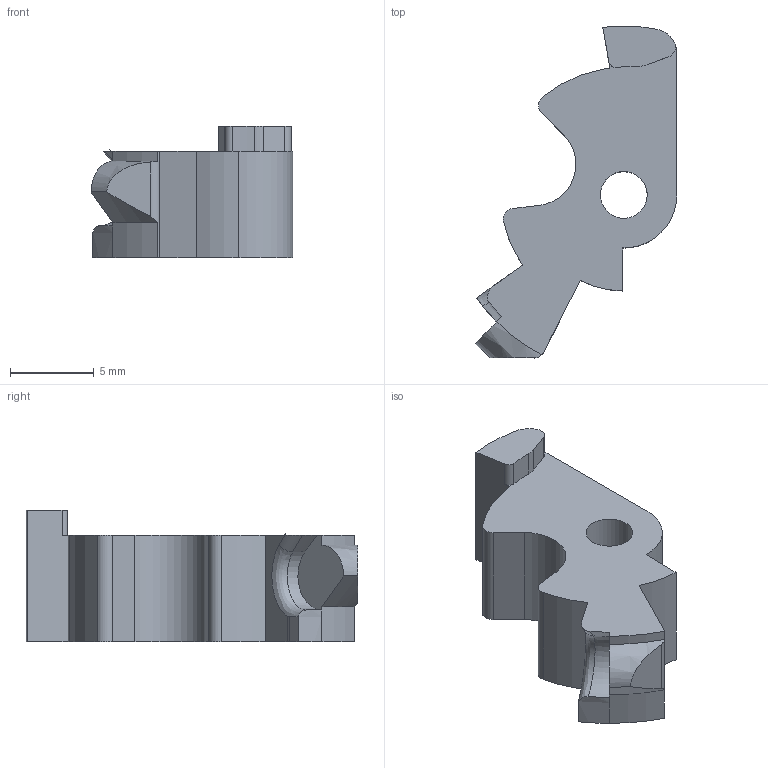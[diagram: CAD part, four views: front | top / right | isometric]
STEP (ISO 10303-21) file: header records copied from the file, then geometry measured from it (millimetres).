
FILE_DESCRIPTION(/* description */ ('STEP AP242','CAx-IF Rec.Pracs.---Representation and Presentation of Product Manufacturing Information (PMI)---4.0---2014-10-13','CAx-IF Rec.Pracs.---3D Tessellated Geometry---0.4---2014-09-14','2;1'),/* implementation_level */ '2;1');
FILE_NAME(/* name */ '61ff680d23e0087fa9c854c3',/* time_stamp */ '2022-02-06T06:17:49+00:00',/* author */ (''),/* organization */ (''),/* preprocessor_version */ 'ST-DEVELOPER v18.101',/* originating_system */ ' ',/* authorisation */ ' ');
FILE_SCHEMA (('AP242_MANAGED_MODEL_BASED_3D_ENGINEERING_MIM_LF { 1 0 10303 442 1 1 4 }'));
Length unit declared in the file: metre
Products named in the file (1): FRT Safety Lever - Mirrored
Bounding box: 12.07 x 19.86 x 7.88 mm (x, y, z)
Volume: 733.4 mm3; surface area: 683.7 mm2
Topology: 1 solids, 1 shells, 41 faces, 130 edges, 91 vertices
Faces by surface type: cylinder 19, plane 16, bspline 4, cone 1, torus 1
Full cylindrical faces by diameter (mm): 2.794 x1
Entity records: 1626 total; most frequent: CARTESIAN_POINT 484, ORIENTED_EDGE 258, DIRECTION 210, EDGE_CURVE 129, VERTEX_POINT 91, AXIS2_PLACEMENT_3D 80, LINE 50, VECTOR 50
